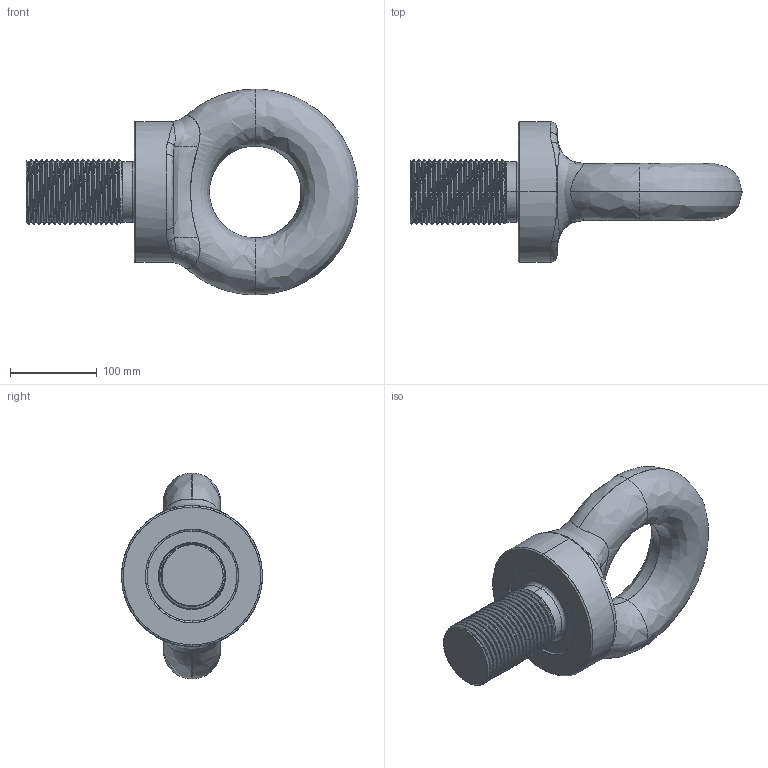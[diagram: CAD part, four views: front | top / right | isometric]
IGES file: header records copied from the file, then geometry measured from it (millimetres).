
Start section: SolidWorks IGES file using analytic representation for surfaces
Global section: file name: C:\Users\Brenton\Documents\Townley\Eye Bolts\Metric\EBMC76\EBMC76.IGS; native system: SolidWorks 2012; preprocessor: SolidWorks 2012; author: Brenton; date: 140228.133456; units: millimetre
Bounding box: 383.84 x 163 x 238 mm (x, y, z)
Surface area: 196482.1 mm2 (no closed solid volume)
Topology: 0 solids, 0 shells, 82 faces, 2952 edges, 2944 vertices
Faces by surface type: revolution 45, bspline 37
